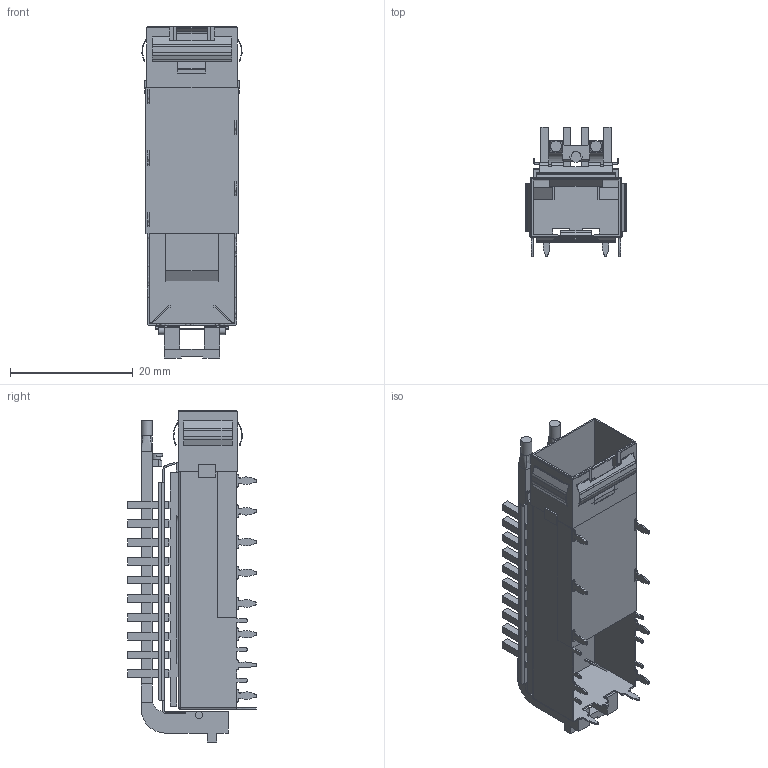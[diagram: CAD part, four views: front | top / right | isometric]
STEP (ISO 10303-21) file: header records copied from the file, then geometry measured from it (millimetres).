
FILE_DESCRIPTION(/* description */ (''),/* implementation_level */ '2;1');
FILE_NAME(/* name */ 'DH10-2N31120-13N 3D.stp',/* time_stamp */ '2026-06-17T11:27:34+08:00',/* author */ (''),/* organization */ (''),/* preprocessor_version */ 'ST-DEVELOPER v16.7',/* originating_system */ 'SIEMENS PLM Software NX 1847',/* authorisation */ '');
FILE_SCHEMA (('AUTOMOTIVE_DESIGN { 1 0 10303 214 3 1 1 1 }'));
Length unit declared in the file: millimetre
Products named in the file (1): Admi28840297r4eo
Bounding box: 16.3 x 21 x 54.05 mm (x, y, z)
Volume: 2743.8 mm3; surface area: 9353.9 mm2
Topology: 4 solids, 4 shells, 896 faces, 2604 edges, 1715 vertices
Faces by surface type: plane 630, cylinder 248, bspline 16, sphere 2
Full cylindrical faces by diameter (mm): 1.5 x1, 1.8 x2
Entity records: 30127 total; most frequent: CARTESIAN_POINT 5584, ORIENTED_EDGE 5192, DIRECTION 4834, EDGE_CURVE 2596, LINE 2066, VECTOR 2066, VERTEX_POINT 1712, AXIS2_PLACEMENT_3D 1384
